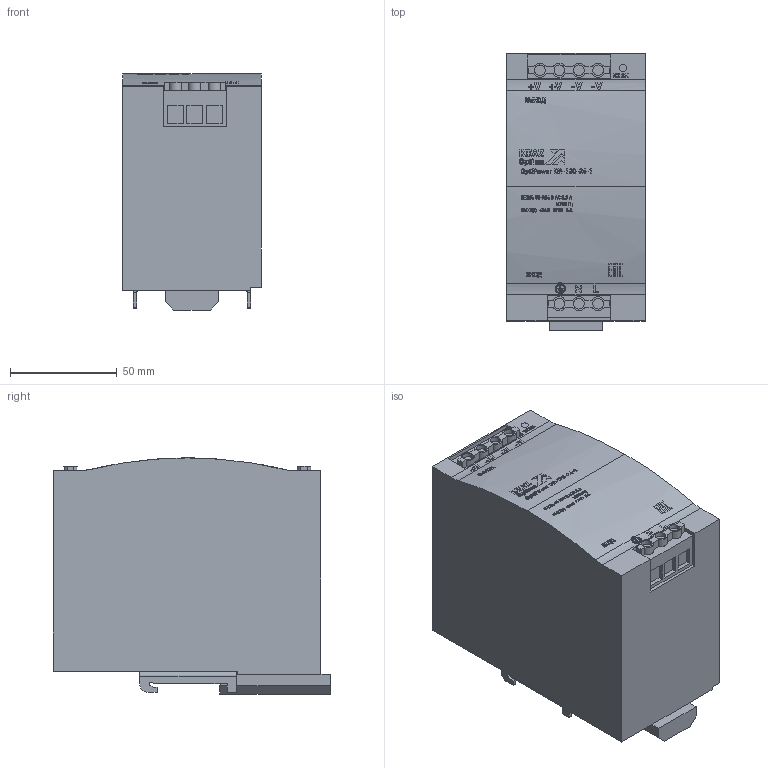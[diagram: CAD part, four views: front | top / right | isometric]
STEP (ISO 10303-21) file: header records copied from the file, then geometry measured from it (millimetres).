
FILE_DESCRIPTION (( 'STEP AP214' ), '1' );
FILE_NAME ('Áëîê ïèòàíèÿ DR-120W-24(KEAZ).STEP', '2019-07-30T10:42:07', ( '' ), ( '' ), 'SwSTEP 2.0', 'SolidWorks 2018', '' );
FILE_SCHEMA (( 'AUTOMOTIVE_DESIGN' ));
Length unit declared in the file: millimetre
Products named in the file (1): Áëîê ïèòàíèÿ DR-120W-24(KEAZ)
Bounding box: 65 x 130 x 110.8 mm (x, y, z)
Volume: 807784 mm3; surface area: 58065.4 mm2
Topology: 1 solids, 1 shells, 347 faces, 1838 edges, 1668 vertices
Faces by surface type: cylinder 201, plane 146
Entity records: 30253 total; most frequent: CARTESIAN_POINT 12191, ORIENTED_EDGE 3672, DIRECTION 2112, EDGE_CURVE 1836, VERTEX_POINT 1667, B_SPLINE_CURVE_WITH_KNOTS 767, VECTOR 720, LINE 720
